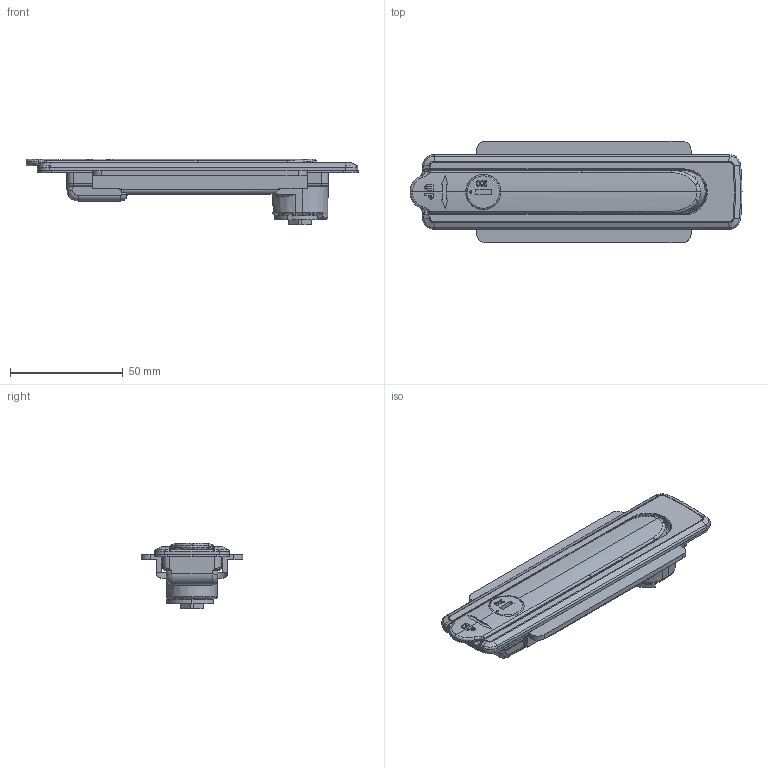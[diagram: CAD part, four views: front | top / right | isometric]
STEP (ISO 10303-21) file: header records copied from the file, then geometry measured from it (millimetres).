
FILE_DESCRIPTION (( 'STEP AP214' ), '1' );
FILE_NAME ('A90 KA-618-1K.STEP', '2016-11-24T07:47:24', ( '' ), ( '' ), 'SwSTEP 2.0', 'SolidWorks 2011', '' );
FILE_SCHEMA (( 'AUTOMOTIVE_DESIGN' ));
Length unit declared in the file: millimetre
Products named in the file (1): A90 KA-618-1K
Bounding box: 147.07 x 45 x 29.2 mm (x, y, z)
Volume: 48776.1 mm3; surface area: 42140.4 mm2
Topology: 4 solids, 4 shells, 805 faces, 2011 edges, 1214 vertices
Faces by surface type: bspline 323, cylinder 231, plane 231, cone 20
Entity records: 55431 total; most frequent: CARTESIAN_POINT 29880, ORIENTED_EDGE 3990, DIRECTION 2778, EDGE_CURVE 1995, VERTEX_POINT 1214, AXIS2_PLACEMENT_3D 987, EDGE_LOOP 843, UNCERTAINTY_MEASURE_WITH_UNIT 805
